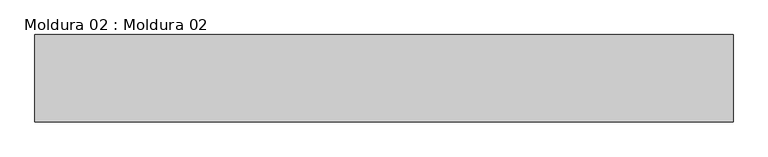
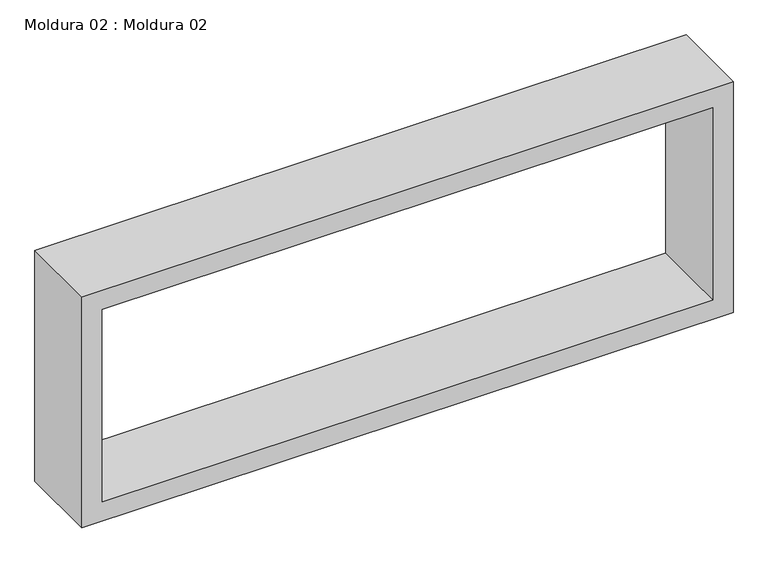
"""IFC4 building model written with IfcOpenShell, lengths in millimetres: proxy geometry, Moldura 02 : Moldura 02."""

import ifcopenshell
import ifcopenshell.guid

model = None  # the IFC model being written
_history = None  # IfcOwnerHistory: only IFC2X3 demands one
_inside = {}  # id of a spatial element -> (the spatial element, [elements in it])
_under = {}  # id of a project, library or spatial element -> (it, [spatial elements below it])
_declared = {}  # id of a project -> (the project, [libraries it declares])
_typed = {}  # id of a type object -> (the type object, [elements of that type])
_made_of = {}  # id of a material, layer set ... -> (it, [elements and type objects made of it])


def new_model(schema):
    """Start an empty IFC model of exactly this schema.

    Asked for "IFC4X3", IfcOpenShell would pick the latest addendum, in which some entities
    have other attributes; the version numbers below select the first issue.
    IFC2X3 requires an IfcOwnerHistory on every rooted entity: one is made here for all.
    """
    global model, _history
    if schema == "IFC4X3":
        model = ifcopenshell.file(schema_version=(4, 3, 0, 0))
    else:
        model = ifcopenshell.file(schema=schema)
    _inside.clear()
    _under.clear()
    _declared.clear()
    _typed.clear()
    _made_of.clear()
    _history = None
    if model.schema == "IFC2X3":
        org = make("IfcOrganization", Name="unknown")
        user = make(
            "IfcPersonAndOrganization",
            ThePerson=make("IfcPerson", FamilyName="unknown"),
            TheOrganization=org,
        )
        app = make(
            "IfcApplication",
            ApplicationDeveloper=org,
            Version="unknown",
            ApplicationFullName="unknown",
            ApplicationIdentifier="unknown",
        )
        _history = make(
            "IfcOwnerHistory",
            OwningUser=user,
            OwningApplication=app,
            ChangeAction="ADDED",
            CreationDate=0,
        )
    return model


def make(cls, **values):
    """One entity of the class cls with the attributes given. An attribute that is None is left unset."""
    return model.create_entity(
        cls, **{name: value for name, value in values.items() if value is not None}
    )


def rooted(cls, **values):
    """An entity with a GlobalId (a new one), such as an element, a storey or a relation."""
    return make(cls, GlobalId=ifcopenshell.guid.new(), OwnerHistory=_history, **values)


def si_unit(unit_type, name, prefix=None):
    """IfcSIUnit, for example si_unit("LENGTHUNIT", "METRE", prefix="MILLI")."""
    return make("IfcSIUnit", UnitType=unit_type, Prefix=prefix, Name=name)


def assignment(units):
    """IfcUnitAssignment: the units of a project."""
    return None if units is None else make("IfcUnitAssignment", Units=units)


def point(xyz):
    """IfcCartesianPoint."""
    return None if xyz is None else make("IfcCartesianPoint", Coordinates=xyz)


def direction(xyz):
    """IfcDirection."""
    return None if xyz is None else make("IfcDirection", DirectionRatios=xyz)


def frame(location, z_axis=None, x_axis=None):
    """IfcAxis2Placement3D, a coordinate frame: its origin and axes. An axis left out is left unset."""
    return make(
        "IfcAxis2Placement3D",
        Location=point(location),
        Axis=direction(z_axis),
        RefDirection=direction(x_axis),
    )


def origin():
    """The frame at (0, 0, 0) with its axes left unset."""
    return frame((0.0, 0.0, 0.0))


def place(relative_to, where):
    """IfcLocalPlacement: puts the frame where relative to a parent placement (None: the world)."""
    return make(
        "IfcLocalPlacement", PlacementRelTo=relative_to, RelativePlacement=where
    )


def context(
    kind, dimensions, precision=None, world=None, true_north=None, identifier=None
):
    """IfcGeometricRepresentationContext, for example the 3D "Model" context."""
    return make(
        "IfcGeometricRepresentationContext",
        ContextIdentifier=identifier,
        ContextType=kind,
        CoordinateSpaceDimension=dimensions,
        Precision=precision,
        WorldCoordinateSystem=world,
        TrueNorth=true_north,
    )


def project(units=None, contexts=None):
    """IfcProject with its units and contexts."""
    return rooted(
        "IfcProject",
        Name="project",
        RepresentationContexts=contexts,
        UnitsInContext=assignment(units),
    )


def spatial(cls, under=None, at=None, **own):
    """A site, building, storey or space (cls), placed at a placement, below another one or the project."""
    s = rooted(cls, ObjectPlacement=at, **own)
    if under is not None:
        _under.setdefault(under.id(), (under, []))[1].append(s)
    return s


def polyline(points):
    """IfcPolyline through the points."""
    return make("IfcPolyline", Points=[point(p) for p in points])


def outline(outer, holes=None, kind="AREA"):
    """IfcArbitraryClosedProfileDef: a profile drawn as a closed curve; with holes, ...WithVoids."""
    if holes is None:
        return make("IfcArbitraryClosedProfileDef", ProfileType=kind, OuterCurve=outer)
    return make(
        "IfcArbitraryProfileDefWithVoids",
        ProfileType=kind,
        OuterCurve=outer,
        InnerCurves=holes,
    )


def extrude(swept, where, along, depth):
    """IfcExtrudedAreaSolid: the profile swept, set in the frame where, extruded along a direction by depth."""
    return make(
        "IfcExtrudedAreaSolid",
        SweptArea=swept,
        Position=where,
        ExtrudedDirection=direction(along),
        Depth=depth,
    )


def shape(context_of_items, identifier, shape_type, items):
    """IfcShapeRepresentation: the items that make up one representation, for example the "Body"."""
    return make(
        "IfcShapeRepresentation",
        ContextOfItems=context_of_items,
        RepresentationIdentifier=identifier,
        RepresentationType=shape_type,
        Items=items,
    )


def source(mapping_origin, context_of_items, identifier, shape_type, items):
    """IfcRepresentationMap: a shape defined once, which mapped items show again and again."""
    return make(
        "IfcRepresentationMap",
        MappingOrigin=mapping_origin,
        MappedRepresentation=shape(context_of_items, identifier, shape_type, items),
    )


def transform(
    local_origin,
    x_axis=None,
    y_axis=None,
    z_axis=None,
    scale=None,
    scale2=None,
    scale3=None,
    uniform=True,
):
    """IfcCartesianTransformationOperator3D, or its non-uniform kind. x_axis, y_axis, z_axis: its Axis1, 2, 3."""
    if uniform:
        return make(
            "IfcCartesianTransformationOperator3D",
            Axis1=direction(x_axis),
            Axis2=direction(y_axis),
            LocalOrigin=point(local_origin),
            Scale=scale,
            Axis3=direction(z_axis),
        )
    return make(
        "IfcCartesianTransformationOperator3DnonUniform",
        Axis1=direction(x_axis),
        Axis2=direction(y_axis),
        LocalOrigin=point(local_origin),
        Scale=scale,
        Axis3=direction(z_axis),
        Scale2=scale2,
        Scale3=scale3,
    )


def mapped(mapping_source, mapping_target):
    """IfcMappedItem: shows the shape of a source again, moved by a transform."""
    return make(
        "IfcMappedItem", MappingSource=mapping_source, MappingTarget=mapping_target
    )


def made_of(thing, what):
    """Note that an element or type object is made of a material, layer set ...; save() writes the relation."""
    if what is not None:
        _made_of.setdefault(what.id(), (what, []))[1].append(thing)
    return thing


def element(
    cls,
    number,
    at=None,
    inside=None,
    cuts=None,
    type_object=None,
    material=None,
    context=None,
    identifier="Body",
    shape_type=None,
    held_by="IfcProductDefinitionShape",
    body=None,
    shapes=None,
    **own,
):
    """One element of the class cls, such as IfcWall. Its Tag is "e" and its number.

    at: its placement. inside: the storey or other place that contains it. cuts: it is an
    opening in that element (IfcRelVoidsElement). A single representation is given by context,
    identifier, shape_type and body (its items); several are given by shapes. held_by: the class
    of the entity that holds the representations. save() writes the other relations.
    """
    e = rooted(cls, Tag="e%d" % number, ObjectPlacement=at, **own)
    if body is not None:
        shapes = [shape(context, identifier, shape_type, body)]
    if shapes is not None:
        e.Representation = make(held_by, Representations=shapes)
    if inside is not None:
        _inside.setdefault(inside.id(), (inside, []))[1].append(e)
    if cuts is not None:
        rooted(
            "IfcRelVoidsElement", RelatingBuildingElement=cuts, RelatedOpeningElement=e
        )
    if type_object is not None:
        _typed.setdefault(type_object.id(), (type_object, []))[1].append(e)
    return made_of(e, material)


def aggregate(whole, parts):
    """IfcRelAggregates: a whole, such as a stair, and the parts it consists of."""
    return rooted("IfcRelAggregates", RelatingObject=whole, RelatedObjects=parts)


def save(model, path):
    """Write the relations noted so far, then the file.

    IfcRelAggregates (storeys below a building ...), IfcRelContainedInSpatialStructure (elements
    in a storey), IfcRelDefinesByType, IfcRelAssociatesMaterial and IfcRelDeclares: one each for
    every whole, place, type object, material and project.
    """
    for whole, parts in _under.values():
        aggregate(whole, parts)
    for where, things in _inside.values():
        rooted(
            "IfcRelContainedInSpatialStructure",
            RelatedElements=things,
            RelatingStructure=where,
        )
    for kind, things in _typed.values():
        rooted("IfcRelDefinesByType", RelatedObjects=things, RelatingType=kind)
    for what, things in _made_of.values():
        rooted("IfcRelAssociatesMaterial", RelatedObjects=things, RelatingMaterial=what)
    for by, libraries in _declared.values():
        rooted("IfcRelDeclares", RelatingContext=by, RelatedDefinitions=libraries)
    model.write(path)


def moldura_02_moldura_02_4cf05638(model_context):
    return source(origin(), model_context, "Body", "SweptSolid", [
        extrude(outline(polyline([(2650.0, 8750.3673655), (2050.0, 8750.3673655), (2050.0, 10350.3673655), (2650.0, 10350.3673655), (2650.0, 8750.3673655)]), holes=[polyline([(2600.0, 10300.3673655), (2100.0, 10300.3673655), (2100.0, 8800.3673655), (2600.0, 8800.3673655), (2600.0, 10300.3673655)])]), frame((0.0, -8241.1116245, 0.0), z_axis=(0.0, 1.0, 0.0), x_axis=(0.0, 0.0, 1.0)), (0.0, 0.0, 1.0), 200.0),
    ])


if __name__ == "__main__":
    model = new_model("IFC4")
    model_context = context("Model", 3, world=origin())
    ifc_project = project(units=[si_unit("LENGTHUNIT", "METRE", prefix="MILLI")], contexts=[model_context])
    site = spatial("IfcSite", under=ifc_project)
    building = spatial("IfcBuilding", under=site)
    placement = place(None, origin())
    moldura_02_moldura_02_shape = moldura_02_moldura_02_4cf05638(model_context)
    element("IfcBuildingElementProxy", 1, Name="Moldura 02 : Moldura 02", ObjectType="Moldura 02 : Moldura 02", at=placement, inside=building, context=model_context, shape_type="MappedRepresentation", body=[
        mapped(moldura_02_moldura_02_shape, transform((0.0, 0.0, 0.0), x_axis=(1.0, 0.0, 0.0), y_axis=(0.0, 1.0, 0.0), z_axis=(0.0, 0.0, 1.0))),
    ])
    save(model, "model.ifc")
